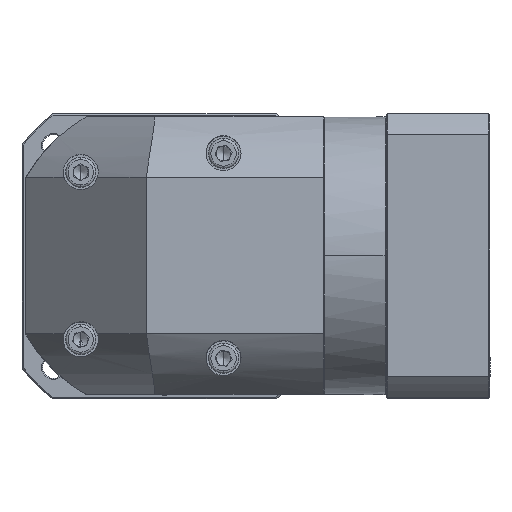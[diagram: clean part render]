
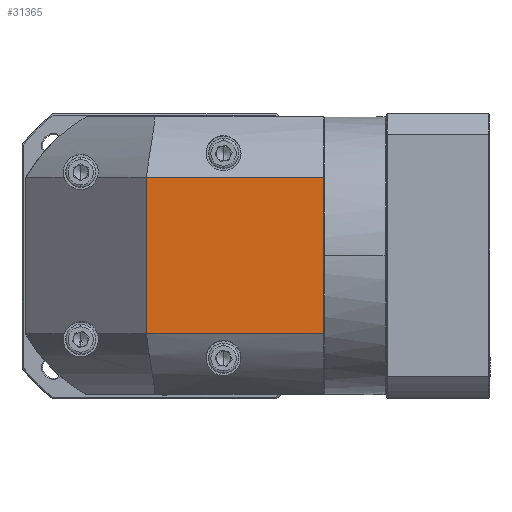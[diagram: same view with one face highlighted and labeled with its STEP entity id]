
A CAD part, top view. The second image highlights one B-rep face of the part: STEP entity #31365.
In plain terms, the highlighted planar face has unit normal (0, 0, 1).
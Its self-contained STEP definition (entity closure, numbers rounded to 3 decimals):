
#445 = LINE ( 'NONE', #111774, #107381 ) ;
#834 = PLANE ( 'NONE',  #77877 ) ;
#5103 = ORIENTED_EDGE ( 'NONE', *, *, #121291, .F. ) ;
#8159 = DIRECTION ( 'NONE',  ( 0., 1., 0. ) ) ;
#8549 = VECTOR ( 'NONE', #59529, 1000. ) ;
#18141 = LINE ( 'NONE', #111394, #125199 ) ;
#20762 = DIRECTION ( 'NONE',  ( 0., 0., -1. ) ) ;
#23430 = CARTESIAN_POINT ( 'NONE',  ( 113.109, 19.869, 64.646 ) ) ;
#28281 = VECTOR ( 'NONE', #86844, 1000. ) ;
#31365 = ADVANCED_FACE ( 'NONE', ( #84339 ), #834, .F. ) ;
#34893 = VERTEX_POINT ( 'NONE', #23430 ) ;
#40478 = EDGE_LOOP ( 'NONE', ( #119130, #43929, #5103, #102367 ) ) ;
#43929 = ORIENTED_EDGE ( 'NONE', *, *, #126668, .F. ) ;
#52091 = VERTEX_POINT ( 'NONE', #70272 ) ;
#59529 = DIRECTION ( 'NONE',  ( 0., -1., 0. ) ) ;
#60265 = LINE ( 'NONE', #80386, #8549 ) ;
#69782 = VERTEX_POINT ( 'NONE', #99855 ) ;
#70272 = CARTESIAN_POINT ( 'NONE',  ( 39.709, 84.669, 64.646 ) ) ;
#70306 = LINE ( 'NONE', #96784, #28281 ) ;
#72780 = DIRECTION ( 'NONE',  ( 0., -1., 0. ) ) ;
#75702 = EDGE_CURVE ( 'NONE', #52091, #69782, #445, .T. ) ;
#77877 = AXIS2_PLACEMENT_3D ( 'NONE', #84048, #20762, #72780 ) ;
#80386 = CARTESIAN_POINT ( 'NONE',  ( 113.109, 109.769, 64.646 ) ) ;
#84048 = CARTESIAN_POINT ( 'NONE',  ( 47.209, 52.269, 64.646 ) ) ;
#84339 = FACE_OUTER_BOUND ( 'NONE', #40478, .T. ) ;
#86844 = DIRECTION ( 'NONE',  ( -1., 0., 0. ) ) ;
#88774 = VERTEX_POINT ( 'NONE', #114623 ) ;
#94575 = EDGE_CURVE ( 'NONE', #69782, #34893, #60265, .T. ) ;
#96784 = CARTESIAN_POINT ( 'NONE',  ( -10.291, 19.869, 64.646 ) ) ;
#99855 = CARTESIAN_POINT ( 'NONE',  ( 113.109, 84.669, 64.646 ) ) ;
#102367 = ORIENTED_EDGE ( 'NONE', *, *, #94575, .F. ) ;
#107381 = VECTOR ( 'NONE', #122694, 1000. ) ;
#111394 = CARTESIAN_POINT ( 'NONE',  ( 39.709, 109.769, 64.646 ) ) ;
#111774 = CARTESIAN_POINT ( 'NONE',  ( -10.291, 84.669, 64.646 ) ) ;
#114623 = CARTESIAN_POINT ( 'NONE',  ( 39.709, 19.869, 64.646 ) ) ;
#119130 = ORIENTED_EDGE ( 'NONE', *, *, #75702, .F. ) ;
#121291 = EDGE_CURVE ( 'NONE', #34893, #88774, #70306, .T. ) ;
#122694 = DIRECTION ( 'NONE',  ( 1., 0., 0. ) ) ;
#125199 = VECTOR ( 'NONE', #8159, 1000. ) ;
#126668 = EDGE_CURVE ( 'NONE', #88774, #52091, #18141, .T. ) ;
